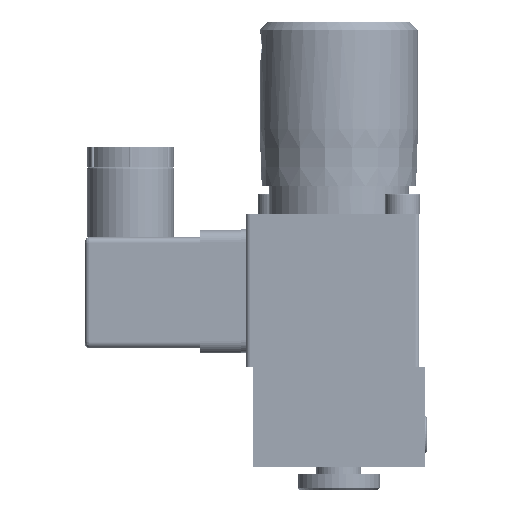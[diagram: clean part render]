
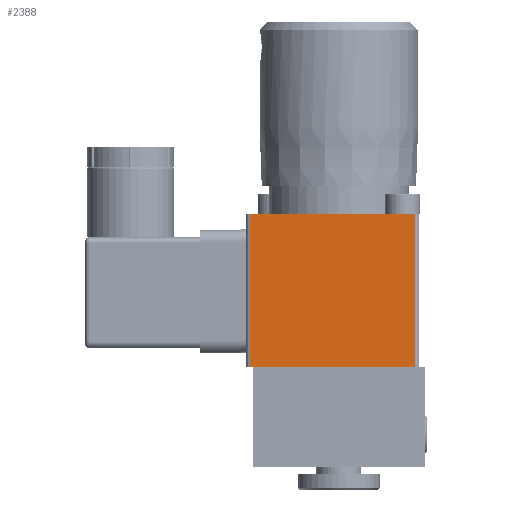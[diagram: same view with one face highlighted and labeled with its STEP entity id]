
A CAD part, front view. The second image highlights one B-rep face of the part: STEP entity #2388.
In plain terms, the highlighted planar face has unit normal (0, -1, 0).
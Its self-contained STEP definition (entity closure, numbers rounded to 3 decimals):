
#124=FACE_OUTER_BOUND('',#3821,.T.);
#520=LINE('',#15476,#1182);
#523=LINE('',#15496,#1185);
#536=LINE('',#15552,#1198);
#537=LINE('',#15553,#1199);
#1182=VECTOR('',#10089,1.);
#1185=VECTOR('',#10108,1.);
#1198=VECTOR('',#10159,1.);
#1199=VECTOR('',#10160,1.);
#2087=PLANE('',#9169);
#2388=ADVANCED_FACE('',(#124),#2087,.T.);
#3821=EDGE_LOOP('',(#4617,#4618,#4619,#4620));
#4617=ORIENTED_EDGE('',*,*,#7783,.F.);
#4618=ORIENTED_EDGE('',*,*,#7820,.F.);
#4619=ORIENTED_EDGE('',*,*,#7793,.T.);
#4620=ORIENTED_EDGE('',*,*,#7821,.T.);
#6932=VERTEX_POINT('',#15477);
#6933=VERTEX_POINT('',#15478);
#6941=VERTEX_POINT('',#15497);
#6942=VERTEX_POINT('',#15498);
#7783=EDGE_CURVE('',#6932,#6933,#520,.T.);
#7793=EDGE_CURVE('',#6941,#6942,#523,.T.);
#7820=EDGE_CURVE('',#6941,#6932,#536,.T.);
#7821=EDGE_CURVE('',#6942,#6933,#537,.T.);
#9169=AXIS2_PLACEMENT_3D('',#15554,#10161,#10162);
#10089=DIRECTION('',(-1.,0.,0.));
#10108=DIRECTION('',(-1.,0.,0.));
#10159=DIRECTION('',(0.,0.,-1.));
#10160=DIRECTION('',(0.,0.,-1.));
#10161=DIRECTION('',(0.,-1.,0.));
#10162=DIRECTION('',(0.,0.,1.));
#15476=CARTESIAN_POINT('',(38.5,1.5,24.5));
#15477=CARTESIAN_POINT('',(38.5,1.5,24.5));
#15478=CARTESIAN_POINT('',(-1.5,1.5,24.5));
#15496=CARTESIAN_POINT('',(38.5,1.5,61.5));
#15497=CARTESIAN_POINT('',(38.5,1.5,61.5));
#15498=CARTESIAN_POINT('',(-1.5,1.5,61.5));
#15552=CARTESIAN_POINT('',(38.5,1.5,61.5));
#15553=CARTESIAN_POINT('',(-1.5,1.5,61.5));
#15554=CARTESIAN_POINT('',(38.5,1.5,61.5));
